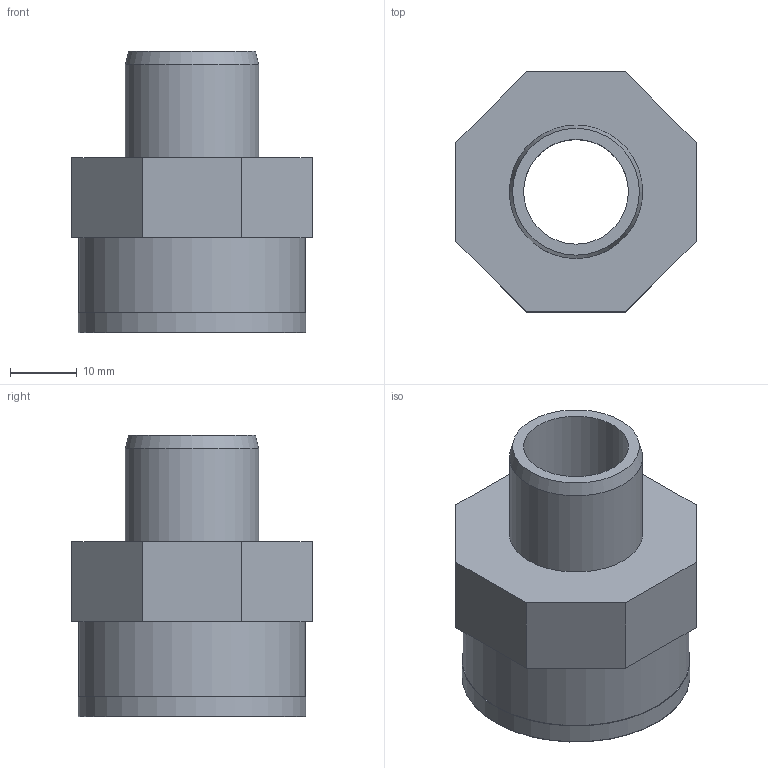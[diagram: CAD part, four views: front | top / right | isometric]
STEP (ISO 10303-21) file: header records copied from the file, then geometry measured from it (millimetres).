
FILE_DESCRIPTION(/* description */ (''),/* implementation_level */ '2;1');
FILE_NAME(/* name */ 'C:\Users\POLYPIPE\Desktop\DATASET INVENTOR\LIBRERIA EFFAST\RACCORDI 3DxWEB\RGR\3D_RGRAFR\3D_RGRAFR020C.stp',/* time_stamp */ '2018-01-19T17:29:55+01:00',/* author */ ('POLYPIPE'),/* organization */ (''),/* preprocessor_version */ 'ST-DEVELOPER v16.1',/* originating_system */ 'Autodesk Inventor 2016',/* authorisation */ '');
FILE_SCHEMA (('CONFIG_CONTROL_DESIGN'));
Length unit declared in the file: centimetre
Products named in the file (1): 3D_RGRAFR020C
Bounding box: 36 x 36 x 42.25 mm (x, y, z)
Volume: 17119.6 mm3; surface area: 9266.7 mm2
Topology: 1 solids, 1 shells, 30 faces, 65 edges, 42 vertices
Faces by surface type: plane 16, cylinder 7, bspline 5, cone 1, torus 1
Full cylindrical faces by diameter (mm): 15.7 x1, 20 x1, 28 x1, 34 x1, 34.2 x1
Entity records: 4450 total; most frequent: CARTESIAN_POINT 3776, ORIENTED_EDGE 114, DIRECTION 114, EDGE_CURVE 57, EDGE_LOOP 44, AXIS2_PLACEMENT_3D 43, VERTEX_POINT 41, STYLED_ITEM 31
